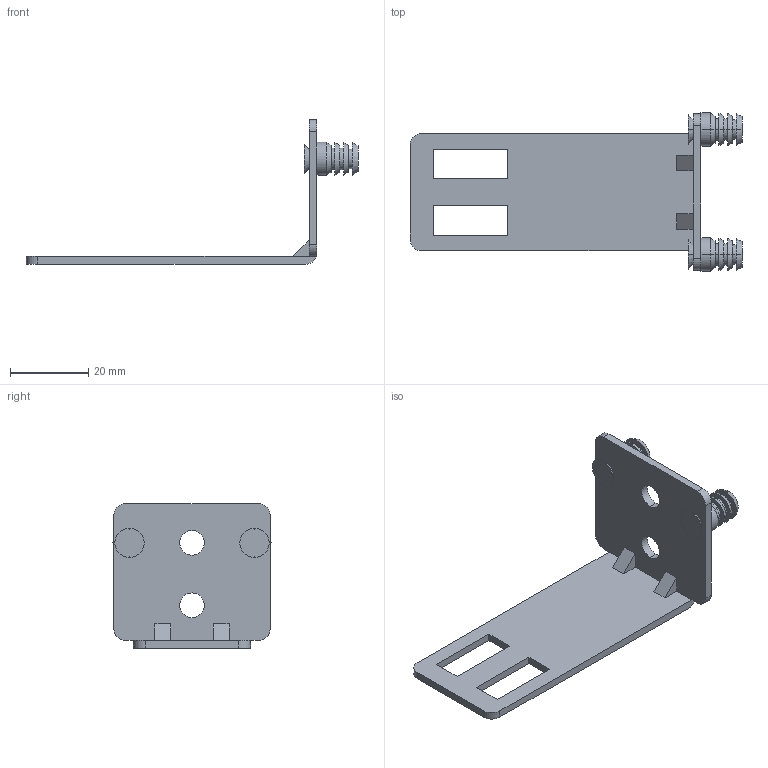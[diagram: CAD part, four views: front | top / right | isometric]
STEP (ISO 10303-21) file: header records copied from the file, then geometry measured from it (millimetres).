
FILE_DESCRIPTION (( 'STEP AP214' ), '1' );
FILE_NAME ('IMOS_XP_Befestigungswinkel_mit_Duebel.STEP', '2010-10-07T05:18:14', ( 'Grass' ), ( '' ), 'SwSTEP 2.0', 'SolidWorks 2010', '' );
FILE_SCHEMA (( 'AUTOMOTIVE_DESIGN' ));
Length unit declared in the file: millimetre
Products named in the file (1): IMOS_XP_Befestigungswinkel_mit_Duebel
Bounding box: 85 x 40.5 x 37 mm (x, y, z)
Volume: 7296 mm3; surface area: 8685.3 mm2
Topology: 2 solids, 4 shells, 119 faces, 263 edges, 172 vertices
Faces by surface type: plane 56, cylinder 35, cone 28
Entity records: 3392 total; most frequent: DIRECTION 627, CARTESIAN_POINT 573, ORIENTED_EDGE 526, EDGE_CURVE 263, AXIS2_PLACEMENT_3D 246, VERTEX_POINT 172, EDGE_LOOP 147, VECTOR 135
